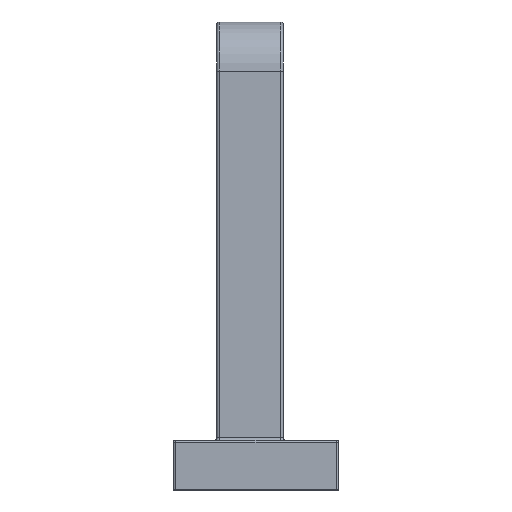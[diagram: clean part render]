
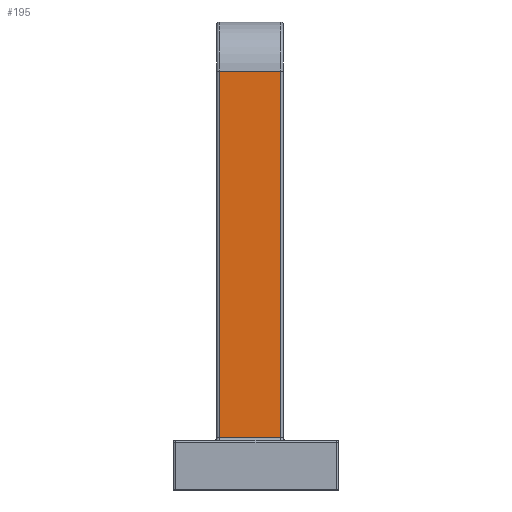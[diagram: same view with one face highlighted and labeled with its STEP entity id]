
A CAD part, left-side view. The second image highlights one B-rep face of the part: STEP entity #195.
In plain terms, the highlighted planar face has unit normal (-1, 0, 0).
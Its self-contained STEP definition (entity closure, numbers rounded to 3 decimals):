
#1 = VECTOR ( 'NONE', #1549, 1000. ) ;
#10 = ORIENTED_EDGE ( 'NONE', *, *, #1964, .T. ) ;
#195 = ADVANCED_FACE ( 'NONE', ( #1573 ), #1968, .T. ) ;
#210 = EDGE_CURVE ( 'NONE', #904, #842, #498, .T. ) ;
#277 = ORIENTED_EDGE ( 'NONE', *, *, #1642, .T. ) ;
#328 = VERTEX_POINT ( 'NONE', #1993 ) ;
#399 = DIRECTION ( 'NONE',  ( 0., 0., 1. ) ) ;
#413 = AXIS2_PLACEMENT_3D ( 'NONE', #709, #1722, #609 ) ;
#441 = LINE ( 'NONE', #1574, #2112 ) ;
#498 = LINE ( 'NONE', #1820, #2028 ) ;
#609 = DIRECTION ( 'NONE',  ( 0., -1., 0. ) ) ;
#618 = DIRECTION ( 'NONE',  ( 0., -1., 0. ) ) ;
#709 = CARTESIAN_POINT ( 'NONE',  ( -66.985, -5.043, 86.12 ) ) ;
#790 = CARTESIAN_POINT ( 'NONE',  ( -66.985, -5.543, 156.62 ) ) ;
#812 = DIRECTION ( 'NONE',  ( 0., -1., 0. ) ) ;
#842 = VERTEX_POINT ( 'NONE', #1071 ) ;
#855 = VERTEX_POINT ( 'NONE', #1258 ) ;
#904 = VERTEX_POINT ( 'NONE', #790 ) ;
#947 = EDGE_CURVE ( 'NONE', #328, #842, #1714, .T. ) ;
#1071 = CARTESIAN_POINT ( 'NONE',  ( -66.985, -17.243, 156.62 ) ) ;
#1077 = CARTESIAN_POINT ( 'NONE',  ( -66.985, -5.543, 86.12 ) ) ;
#1258 = CARTESIAN_POINT ( 'NONE',  ( -66.985, -5.543, 86.62 ) ) ;
#1448 = VECTOR ( 'NONE', #399, 1000. ) ;
#1549 = DIRECTION ( 'NONE',  ( 0., 0., -1. ) ) ;
#1573 = FACE_OUTER_BOUND ( 'NONE', #1882, .T. ) ;
#1574 = CARTESIAN_POINT ( 'NONE',  ( -66.985, -5.043, 86.62 ) ) ;
#1642 = EDGE_CURVE ( 'NONE', #904, #855, #1842, .T. ) ;
#1714 = LINE ( 'NONE', #2090, #1448 ) ;
#1722 = DIRECTION ( 'NONE',  ( -1., 0., 0. ) ) ;
#1820 = CARTESIAN_POINT ( 'NONE',  ( -66.985, -5.043, 156.62 ) ) ;
#1842 = LINE ( 'NONE', #1077, #1 ) ;
#1882 = EDGE_LOOP ( 'NONE', ( #10, #2043, #2019, #277 ) ) ;
#1964 = EDGE_CURVE ( 'NONE', #855, #328, #441, .T. ) ;
#1968 = PLANE ( 'NONE',  #413 ) ;
#1993 = CARTESIAN_POINT ( 'NONE',  ( -66.985, -17.243, 86.62 ) ) ;
#2019 = ORIENTED_EDGE ( 'NONE', *, *, #210, .F. ) ;
#2028 = VECTOR ( 'NONE', #812, 1000. ) ;
#2043 = ORIENTED_EDGE ( 'NONE', *, *, #947, .T. ) ;
#2090 = CARTESIAN_POINT ( 'NONE',  ( -66.985, -17.243, 86.12 ) ) ;
#2112 = VECTOR ( 'NONE', #618, 1000. ) ;
